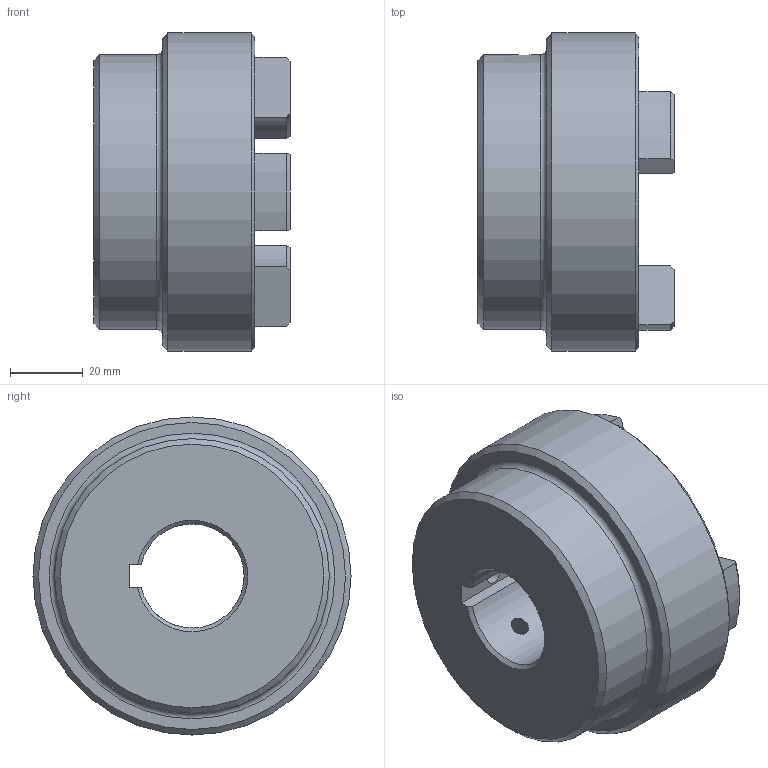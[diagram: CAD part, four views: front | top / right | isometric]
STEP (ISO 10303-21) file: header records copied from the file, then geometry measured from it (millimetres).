
FILE_DESCRIPTION (( 'STEP AP203' ), '1' );
FILE_NAME ('RC3.step', '2024-07-24T12:47:46', ( 'Adlan' ), ( '' ), 'SwSTEP 2.0', 'SolidWorks 2013', '' );
FILE_SCHEMA (( 'CONFIG_CONTROL_DESIGN' ));
Length unit declared in the file: inch
Products named in the file (1): RC3
Bounding box: 53.85 x 87.38 x 87.38 mm (x, y, z)
Volume: 173914 mm3; surface area: 30541.8 mm2
Topology: 1 solids, 1 shells, 67 faces, 168 edges, 105 vertices
Faces by surface type: cylinder 26, plane 16, torus 13, cone 12
Full cylindrical faces by diameter (mm): 5.105 x2, 75.438 x1, 87.376 x1
Entity records: 2241 total; most frequent: CARTESIAN_POINT 566, DIRECTION 354, ORIENTED_EDGE 310, EDGE_CURVE 155, AXIS2_PLACEMENT_3D 142, VERTEX_POINT 102, EDGE_LOOP 85, CIRCLE 74
